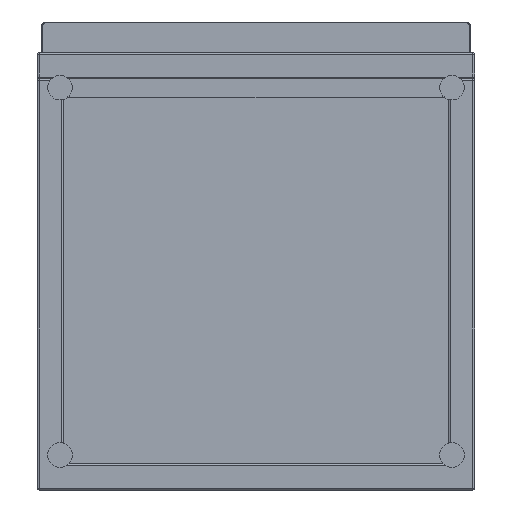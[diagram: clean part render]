
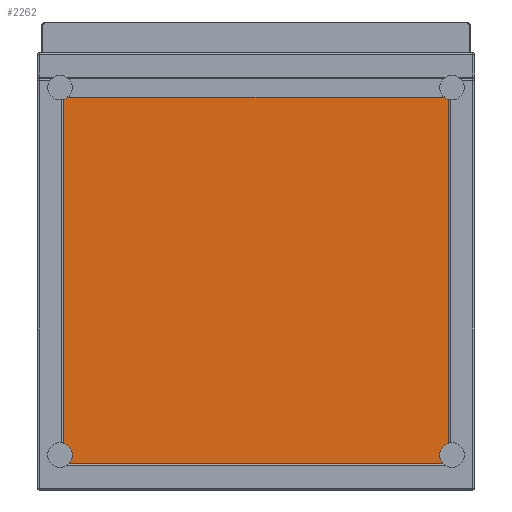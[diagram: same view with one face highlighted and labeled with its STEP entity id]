
A CAD part, front view. The second image highlights one B-rep face of the part: STEP entity #2262.
In plain terms, the highlighted planar face has unit normal (0, -1, 0).
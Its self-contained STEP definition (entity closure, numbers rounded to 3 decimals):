
#86=PLANE('',#2540);
#164=LINE('',#3727,#352);
#167=LINE('',#3734,#355);
#168=LINE('',#3736,#356);
#169=LINE('',#3739,#357);
#352=VECTOR('',#2941,10.);
#355=VECTOR('',#2948,10.);
#356=VECTOR('',#2949,10.);
#357=VECTOR('',#2952,10.);
#599=FACE_OUTER_BOUND('',#753,.T.);
#753=EDGE_LOOP('',(#1658,#1659,#1660,#1661,#1662,#1663));
#908=CIRCLE('',#2541,2.);
#909=CIRCLE('',#2542,2.);
#1062=VERTEX_POINT('',#3725);
#1063=VERTEX_POINT('',#3726);
#1064=VERTEX_POINT('',#3731);
#1065=VERTEX_POINT('',#3732);
#1066=VERTEX_POINT('',#3735);
#1067=VERTEX_POINT('',#3737);
#1274=EDGE_CURVE('',#1062,#1063,#164,.T.);
#1277=EDGE_CURVE('',#1064,#1065,#908,.T.);
#1278=EDGE_CURVE('',#1062,#1064,#167,.T.);
#1279=EDGE_CURVE('',#1066,#1063,#168,.T.);
#1280=EDGE_CURVE('',#1067,#1066,#909,.T.);
#1281=EDGE_CURVE('',#1065,#1067,#169,.T.);
#1658=ORIENTED_EDGE('',*,*,#1277,.F.);
#1659=ORIENTED_EDGE('',*,*,#1278,.F.);
#1660=ORIENTED_EDGE('',*,*,#1274,.T.);
#1661=ORIENTED_EDGE('',*,*,#1279,.F.);
#1662=ORIENTED_EDGE('',*,*,#1280,.F.);
#1663=ORIENTED_EDGE('',*,*,#1281,.F.);
#2262=ADVANCED_FACE('',(#599),#86,.F.);
#2540=AXIS2_PLACEMENT_3D('',#3730,#2944,#2945);
#2541=AXIS2_PLACEMENT_3D('',#3733,#2946,#2947);
#2542=AXIS2_PLACEMENT_3D('',#3738,#2950,#2951);
#2941=DIRECTION('',(-1.,0.,0.));
#2944=DIRECTION('center_axis',(0.,1.,0.));
#2945=DIRECTION('ref_axis',(0.,0.,1.));
#2946=DIRECTION('center_axis',(0.,1.,0.));
#2947=DIRECTION('ref_axis',(0.707,0.,-0.707));
#2948=DIRECTION('',(0.,0.,-1.));
#2949=DIRECTION('',(0.,0.,1.));
#2950=DIRECTION('center_axis',(0.,1.,0.));
#2951=DIRECTION('ref_axis',(-0.707,0.,-0.707));
#2952=DIRECTION('',(-1.,0.,0.));
#3725=CARTESIAN_POINT('',(220.,5.,198.838));
#3726=CARTESIAN_POINT('',(-220.,5.,198.838));
#3727=CARTESIAN_POINT('',(220.,5.,198.838));
#3730=CARTESIAN_POINT('Origin',(0.,5.,-10.581));
#3731=CARTESIAN_POINT('',(220.,5.,-218.));
#3732=CARTESIAN_POINT('',(218.,5.,-220.));
#3733=CARTESIAN_POINT('Origin',(218.,5.,-218.));
#3734=CARTESIAN_POINT('',(220.,5.,104.71));
#3735=CARTESIAN_POINT('',(-220.,5.,-218.));
#3736=CARTESIAN_POINT('',(-220.,5.,-115.29));
#3737=CARTESIAN_POINT('',(-218.,5.,-220.));
#3738=CARTESIAN_POINT('Origin',(-218.,5.,-218.));
#3739=CARTESIAN_POINT('',(110.,5.,-220.));
